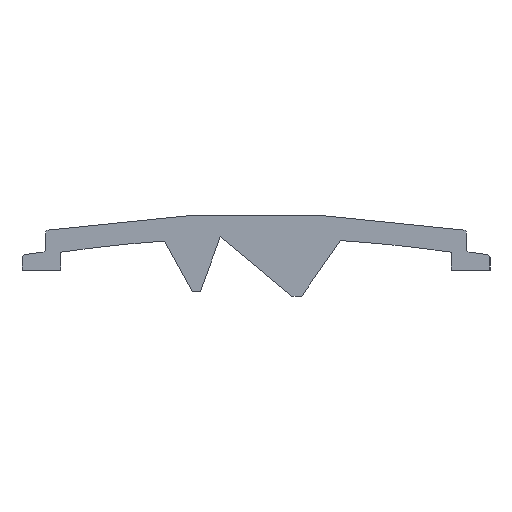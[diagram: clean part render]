
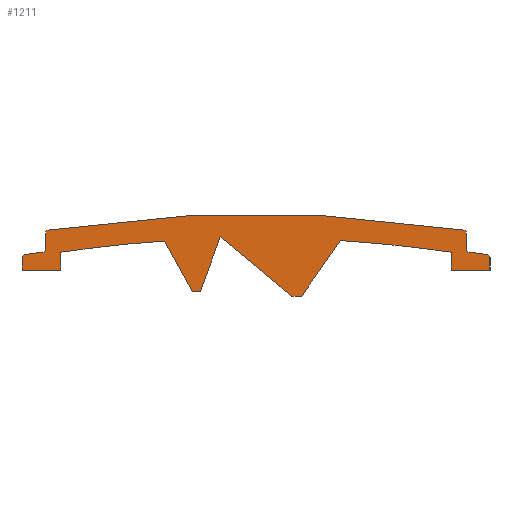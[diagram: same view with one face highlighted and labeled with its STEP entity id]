
A CAD part, left-side view. The second image highlights one B-rep face of the part: STEP entity #1211.
In plain terms, the highlighted planar face has unit normal (-1, 0, 0).
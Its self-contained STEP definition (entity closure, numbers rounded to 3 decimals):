
#136=CARTESIAN_POINT(' ',(-278.8,-12.9,2.));
#141=DIRECTION(' ',(0.,-1.,0.));
#146=VECTOR(' ',#141,1.);
#151=LINE('',#136,#146);
#156=CARTESIAN_POINT(' ',(-278.8,-12.9,2.));
#157=VERTEX_POINT(' ',#156);
#161=CARTESIAN_POINT(' ',(-278.8,-15.45,2.));
#162=VERTEX_POINT(' ',#161);
#166=EDGE_CURVE(' ',#157,#162,#151,.T.);
#291=DIRECTION(' ',(-1.,0.,0.));
#296=CARTESIAN_POINT(' ',(-278.8,15.45,0.288));
#301=DIRECTION(' ',(0.,-1.,0.));
#306=AXIS2_PLACEMENT_3D(' ',#296,#291,#301);
#311=PLANE('',#306);
#316=CARTESIAN_POINT(' ',(-278.8,0.,-84.272));
#321=DIRECTION(' ',(1.,-0.,0.));
#326=DIRECTION(' ',(0.,-0.063,0.998));
#331=AXIS2_PLACEMENT_3D(' ',#316,#321,#326);
#336=CIRCLE('',#331,88.4);
#341=CARTESIAN_POINT(' ',(-278.8,-5.579,3.952));
#342=VERTEX_POINT(' ',#341);
#346=CARTESIAN_POINT(' ',(-278.8,-12.9,3.182));
#347=VERTEX_POINT(' ',#346);
#351=EDGE_CURVE(' ',#342,#347,#336,.T.);
#356=ORIENTED_EDGE(' ',*,*,#351,.T.);
#361=CARTESIAN_POINT(' ',(-278.8,-12.9,3.182));
#366=DIRECTION(' ',(0.,0.,-1.));
#371=VECTOR(' ',#366,1.);
#376=LINE('',#361,#371);
#381=EDGE_CURVE(' ',#347,#157,#376,.T.);
#386=ORIENTED_EDGE(' ',*,*,#381,.T.);
#391=ORIENTED_EDGE(' ',*,*,#166,.T.);
#396=CARTESIAN_POINT(' ',(-278.8,-15.45,2.));
#401=DIRECTION(' ',(0.,0.,1.));
#406=VECTOR(' ',#401,1.);
#411=LINE('',#396,#406);
#416=CARTESIAN_POINT(' ',(-278.8,-15.45,2.826));
#417=VERTEX_POINT(' ',#416);
#421=EDGE_CURVE(' ',#162,#417,#411,.T.);
#426=ORIENTED_EDGE(' ',*,*,#421,.T.);
#431=CARTESIAN_POINT(' ',(-278.8,-15.25,2.826));
#436=DIRECTION(' ',(-1.,0.,-0.));
#441=DIRECTION(' ',(0.,-1.,0.));
#446=AXIS2_PLACEMENT_3D(' ',#431,#436,#441);
#451=CIRCLE('',#446,0.2);
#456=CARTESIAN_POINT(' ',(-278.8,-15.278,3.024));
#457=VERTEX_POINT(' ',#456);
#461=EDGE_CURVE(' ',#417,#457,#451,.T.);
#466=ORIENTED_EDGE(' ',*,*,#461,.T.);
#471=CARTESIAN_POINT(' ',(-278.8,-15.278,3.024));
#476=DIRECTION(' ',(0.,0.99,0.139));
#481=VECTOR(' ',#476,1.);
#486=LINE('',#471,#481);
#491=CARTESIAN_POINT(' ',(-278.8,-14.072,3.193));
#492=VERTEX_POINT(' ',#491);
#496=EDGE_CURVE(' ',#457,#492,#486,.T.);
#501=ORIENTED_EDGE(' ',*,*,#496,.T.);
#506=CARTESIAN_POINT(' ',(-278.8,-14.099,3.39));
#511=DIRECTION(' ',(1.,0.,-0.));
#516=DIRECTION(' ',(0.,0.134,-0.991));
#521=AXIS2_PLACEMENT_3D(' ',#506,#511,#516);
#526=CIRCLE('',#521,0.199);
#531=CARTESIAN_POINT(' ',(-278.8,-13.9,3.392));
#532=VERTEX_POINT(' ',#531);
#536=EDGE_CURVE(' ',#492,#532,#526,.T.);
#541=ORIENTED_EDGE(' ',*,*,#536,.T.);
#546=CARTESIAN_POINT(' ',(-278.8,-13.9,3.392));
#551=DIRECTION(' ',(0.,0.,1.));
#556=VECTOR(' ',#551,1.);
#561=LINE('',#546,#556);
#566=CARTESIAN_POINT(' ',(-278.8,-13.9,4.449));
#567=VERTEX_POINT(' ',#566);
#571=EDGE_CURVE(' ',#532,#567,#561,.T.);
#576=ORIENTED_EDGE(' ',*,*,#571,.T.);
#581=CARTESIAN_POINT(' ',(-278.8,-13.7,4.449));
#586=DIRECTION(' ',(-1.,0.,-0.));
#591=DIRECTION(' ',(0.,-1.,0.));
#596=AXIS2_PLACEMENT_3D(' ',#581,#586,#591);
#601=CIRCLE('',#596,0.2);
#606=CARTESIAN_POINT(' ',(-278.8,-13.731,4.646));
#607=VERTEX_POINT(' ',#606);
#611=EDGE_CURVE(' ',#567,#607,#601,.T.);
#616=ORIENTED_EDGE(' ',*,*,#611,.T.);
#621=CARTESIAN_POINT(' ',(-278.8,0.,-84.3));
#626=DIRECTION(' ',(-1.,0.,-0.));
#631=DIRECTION(' ',(0.,-0.153,0.988));
#636=AXIS2_PLACEMENT_3D(' ',#621,#626,#631);
#641=CIRCLE('',#636,90.);
#646=CARTESIAN_POINT(' ',(-278.8,13.731,4.646));
#647=VERTEX_POINT(' ',#646);
#651=EDGE_CURVE(' ',#607,#647,#641,.T.);
#656=ORIENTED_EDGE(' ',*,*,#651,.T.);
#661=CARTESIAN_POINT(' ',(-278.8,13.701,4.45));
#666=DIRECTION(' ',(-1.,-0.,-0.));
#671=DIRECTION(' ',(0.,0.147,0.989));
#676=AXIS2_PLACEMENT_3D(' ',#661,#666,#671);
#681=CIRCLE('',#676,0.199);
#686=CARTESIAN_POINT(' ',(-278.8,13.9,4.449));
#687=VERTEX_POINT(' ',#686);
#691=EDGE_CURVE(' ',#647,#687,#681,.T.);
#696=ORIENTED_EDGE(' ',*,*,#691,.T.);
#701=CARTESIAN_POINT(' ',(-278.8,13.9,4.449));
#706=DIRECTION(' ',(0.,0.,-1.));
#711=VECTOR(' ',#706,1.);
#716=LINE('',#701,#711);
#721=CARTESIAN_POINT(' ',(-278.8,13.9,3.392));
#722=VERTEX_POINT(' ',#721);
#726=EDGE_CURVE(' ',#687,#722,#716,.T.);
#731=ORIENTED_EDGE(' ',*,*,#726,.T.);
#736=CARTESIAN_POINT(' ',(-278.8,14.1,3.392));
#741=DIRECTION(' ',(1.,-0.,-0.));
#746=DIRECTION(' ',(0.,-1.,0.));
#751=AXIS2_PLACEMENT_3D(' ',#736,#741,#746);
#756=CIRCLE('',#751,0.2);
#761=CARTESIAN_POINT(' ',(-278.8,14.072,3.193));
#762=VERTEX_POINT(' ',#761);
#766=EDGE_CURVE(' ',#722,#762,#756,.T.);
#771=ORIENTED_EDGE(' ',*,*,#766,.T.);
#776=CARTESIAN_POINT(' ',(-278.8,14.072,3.193));
#781=DIRECTION(' ',(0.,0.99,-0.139));
#786=VECTOR(' ',#781,1.);
#791=LINE('',#776,#786);
#796=CARTESIAN_POINT(' ',(-278.8,15.278,3.024));
#797=VERTEX_POINT(' ',#796);
#801=EDGE_CURVE(' ',#762,#797,#791,.T.);
#806=ORIENTED_EDGE(' ',*,*,#801,.T.);
#811=CARTESIAN_POINT(' ',(-278.8,15.251,2.827));
#816=DIRECTION(' ',(-1.,-0.,-0.));
#821=DIRECTION(' ',(0.,0.134,0.991));
#826=AXIS2_PLACEMENT_3D(' ',#811,#816,#821);
#831=CIRCLE('',#826,0.199);
#836=CARTESIAN_POINT(' ',(-278.8,15.45,2.826));
#837=VERTEX_POINT(' ',#836);
#841=EDGE_CURVE(' ',#797,#837,#831,.T.);
#846=ORIENTED_EDGE(' ',*,*,#841,.T.);
#851=CARTESIAN_POINT(' ',(-278.8,15.45,2.826));
#856=DIRECTION(' ',(0.,0.,-1.));
#861=VECTOR(' ',#856,1.);
#866=LINE('',#851,#861);
#871=CARTESIAN_POINT(' ',(-278.8,15.45,2.));
#872=VERTEX_POINT(' ',#871);
#876=EDGE_CURVE(' ',#837,#872,#866,.T.);
#881=ORIENTED_EDGE(' ',*,*,#876,.T.);
#886=CARTESIAN_POINT(' ',(-278.8,15.45,2.));
#891=DIRECTION(' ',(0.,-1.,0.));
#896=VECTOR(' ',#891,1.);
#901=LINE('',#886,#896);
#906=CARTESIAN_POINT(' ',(-278.8,12.9,2.));
#907=VERTEX_POINT(' ',#906);
#911=EDGE_CURVE(' ',#872,#907,#901,.T.);
#916=ORIENTED_EDGE(' ',*,*,#911,.T.);
#921=CARTESIAN_POINT(' ',(-278.8,12.9,2.));
#926=DIRECTION(' ',(0.,0.,1.));
#931=VECTOR(' ',#926,1.);
#936=LINE('',#921,#931);
#941=CARTESIAN_POINT(' ',(-278.8,12.9,3.182));
#942=VERTEX_POINT(' ',#941);
#946=EDGE_CURVE(' ',#907,#942,#936,.T.);
#951=ORIENTED_EDGE(' ',*,*,#946,.T.);
#956=CARTESIAN_POINT(' ',(-278.8,0.,-84.272));
#961=DIRECTION(' ',(1.,0.,0.));
#966=DIRECTION(' ',(0.,0.146,0.989));
#971=AXIS2_PLACEMENT_3D(' ',#956,#961,#966);
#976=CIRCLE('',#971,88.4);
#981=CARTESIAN_POINT(' ',(-278.8,6.03,3.922));
#982=VERTEX_POINT(' ',#981);
#986=EDGE_CURVE(' ',#942,#982,#976,.T.);
#991=ORIENTED_EDGE(' ',*,*,#986,.T.);
#996=CARTESIAN_POINT(' ',(-278.8,6.03,3.922));
#1001=DIRECTION(' ',(0.,-0.482,-0.876));
#1006=VECTOR(' ',#1001,1.);
#1011=LINE('',#996,#1006);
#1016=CARTESIAN_POINT(' ',(-278.8,4.201,0.597));
#1017=VERTEX_POINT(' ',#1016);
#1021=EDGE_CURVE(' ',#982,#1017,#1011,.T.);
#1026=ORIENTED_EDGE(' ',*,*,#1021,.T.);
#1031=CARTESIAN_POINT(' ',(-278.8,4.201,0.597));
#1036=DIRECTION(' ',(0.,-1.,0.));
#1041=VECTOR(' ',#1036,1.);
#1046=LINE('',#1031,#1041);
#1051=CARTESIAN_POINT(' ',(-278.8,3.67,0.597));
#1052=VERTEX_POINT(' ',#1051);
#1056=EDGE_CURVE(' ',#1017,#1052,#1046,.T.);
#1061=ORIENTED_EDGE(' ',*,*,#1056,.T.);
#1066=CARTESIAN_POINT(' ',(-278.8,3.67,0.597));
#1071=DIRECTION(' ',(0.,-0.342,0.94));
#1076=VECTOR(' ',#1071,1.);
#1081=LINE('',#1066,#1076);
#1086=CARTESIAN_POINT(' ',(-278.8,2.354,4.212));
#1087=VERTEX_POINT(' ',#1086);
#1091=EDGE_CURVE(' ',#1052,#1087,#1081,.T.);
#1096=ORIENTED_EDGE(' ',*,*,#1091,.T.);
#1101=CARTESIAN_POINT(' ',(-278.8,2.354,4.212));
#1106=DIRECTION(' ',(0.,-0.769,-0.64));
#1111=VECTOR(' ',#1106,1.);
#1116=LINE('',#1101,#1111);
#1121=CARTESIAN_POINT(' ',(-278.8,-2.361,0.288));
#1122=VERTEX_POINT(' ',#1121);
#1126=EDGE_CURVE(' ',#1087,#1122,#1116,.T.);
#1131=ORIENTED_EDGE(' ',*,*,#1126,.T.);
#1136=CARTESIAN_POINT(' ',(-278.8,-2.361,0.288));
#1141=DIRECTION(' ',(0.,-1.,0.));
#1146=VECTOR(' ',#1141,1.);
#1151=LINE('',#1136,#1146);
#1156=CARTESIAN_POINT(' ',(-278.8,-3.014,0.288));
#1157=VERTEX_POINT(' ',#1156);
#1161=EDGE_CURVE(' ',#1122,#1157,#1151,.T.);
#1166=ORIENTED_EDGE(' ',*,*,#1161,.T.);
#1171=CARTESIAN_POINT(' ',(-278.8,-3.014,0.288));
#1176=DIRECTION(' ',(0.,-0.574,0.819));
#1181=VECTOR(' ',#1176,1.);
#1186=LINE('',#1171,#1181);
#1191=EDGE_CURVE(' ',#1157,#342,#1186,.T.);
#1196=ORIENTED_EDGE(' ',*,*,#1191,.T.);
#1201=EDGE_LOOP(' ',(#356,#386,#391,#426,#466,#501,#541,#576,#616,#656,#696,#731,#771,#806,#846,#881,#916,#951,#991,#1026,#1061,#1096,#1131,#1166,#1196));
#1206=FACE_OUTER_BOUND(' ',#1201,.T.);
#1211=ADVANCED_FACE('',(#1206),#311,.T.);
